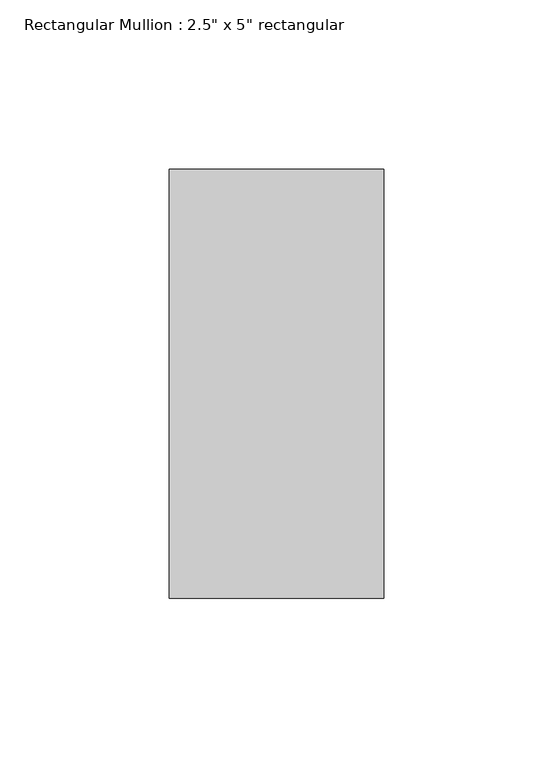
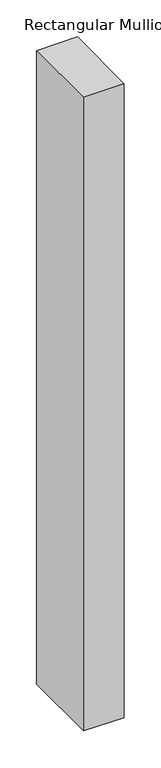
"""IFC4 building model written with IfcOpenShell, lengths in millimetres: member geometry."""

from ifc_helpers import new_model, si_unit, frame, origin, place, context, project, spatial, polyline, outline, extrude, source, transform, mapped, element, save


def member_07ca578d(model_context):
    return source(origin(), model_context, "Body", "SweptSolid", [
        extrude(outline(polyline([(0.0, 0.0), (-0.8472536, -63.5), (-1047.5425728, -63.5), (-1048.1716667, 0.0), (0.0, 0.0)])), frame((0.0, -63.5, 0.0), z_axis=(0.0, 1.0, 0.0), x_axis=(0.0, 0.0, 1.0)), (0.0, 0.0, 1.0), 127.0),
    ])


if __name__ == "__main__":
    model = new_model("IFC4")
    model_context = context("Model", 3, world=origin())
    ifc_project = project(units=[si_unit("LENGTHUNIT", "METRE", prefix="MILLI")], contexts=[model_context])
    site = spatial("IfcSite", under=ifc_project)
    building = spatial("IfcBuilding", under=site)
    placement = place(None, origin())
    member_shape = member_07ca578d(model_context)
    element("IfcMember", 1, ObjectType="Rectangular Mullion : 2.5\" x 5\" rectangular", at=placement, inside=building, context=model_context, shape_type="MappedRepresentation", body=[
        mapped(member_shape, transform((0.0, 0.0, 0.0), x_axis=(1.0, 0.0, 0.0), y_axis=(0.0, 1.0, 0.0), z_axis=(0.0, 0.0, 1.0))),
    ])
    save(model, "model.ifc")
